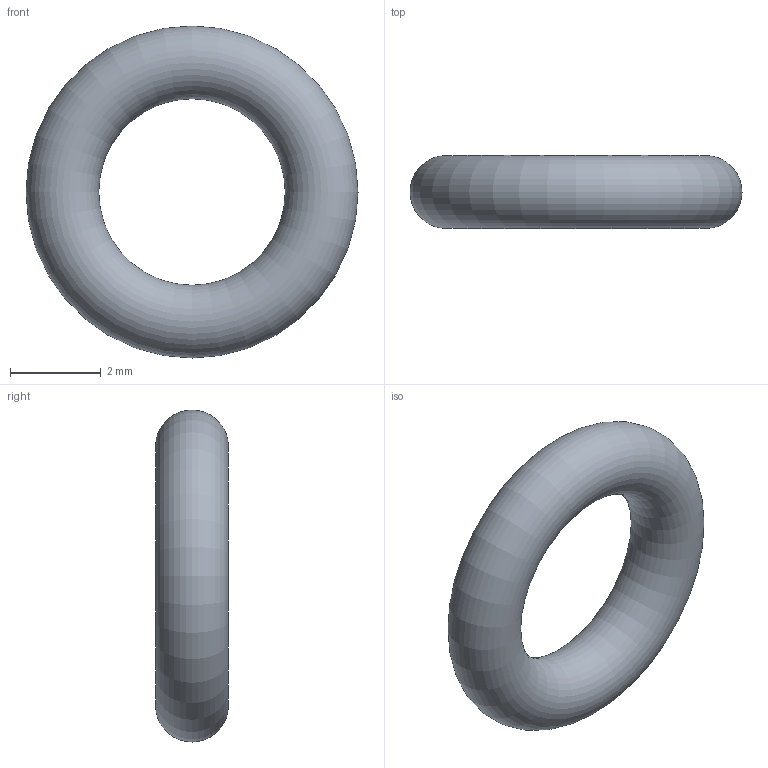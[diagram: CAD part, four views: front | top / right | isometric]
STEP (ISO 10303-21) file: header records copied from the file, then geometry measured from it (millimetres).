
FILE_DESCRIPTION( ( 'STEP AP203' ), '1' );
FILE_NAME( 'C:/Temp/Ganter_Step_05_03_2020/data/3_5/or638/O-Ring OR638-4.10-1.60-70.stp', '2020-03-12T13:44:19', ( 'License CC BY-ND 4.0' ), ( 'CADENAS' ), ' ', 'PARTsolutions', ' ' );
FILE_SCHEMA( ( 'CONFIG_CONTROL_DESIGN' ) );
Length unit declared in the file: millimetre
Products named in the file (1): _O-Ring OR638-4.10-1.60-70
Bounding box: 7.3 x 1.6 x 7.3 mm (x, y, z)
Volume: 36 mm3; surface area: 90 mm2
Topology: 1 solids, 1 shells, 1 faces, 2 edges, 1 vertices
Faces by surface type: torus 1
Entity records: 62 total; most frequent: CC_DESIGN_PERSON_AND_ORGANIZATION_ASSIGNMENT 5, PERSON_AND_ORGANIZATION_ROLE 4, DIRECTION 4, CARTESIAN_POINT 3, DATE_TIME_ROLE 2, CC_DESIGN_DATE_AND_TIME_ASSIGNMENT 2, AXIS2_PLACEMENT_3D 2, DIMENSIONAL_EXPONENTS 2
